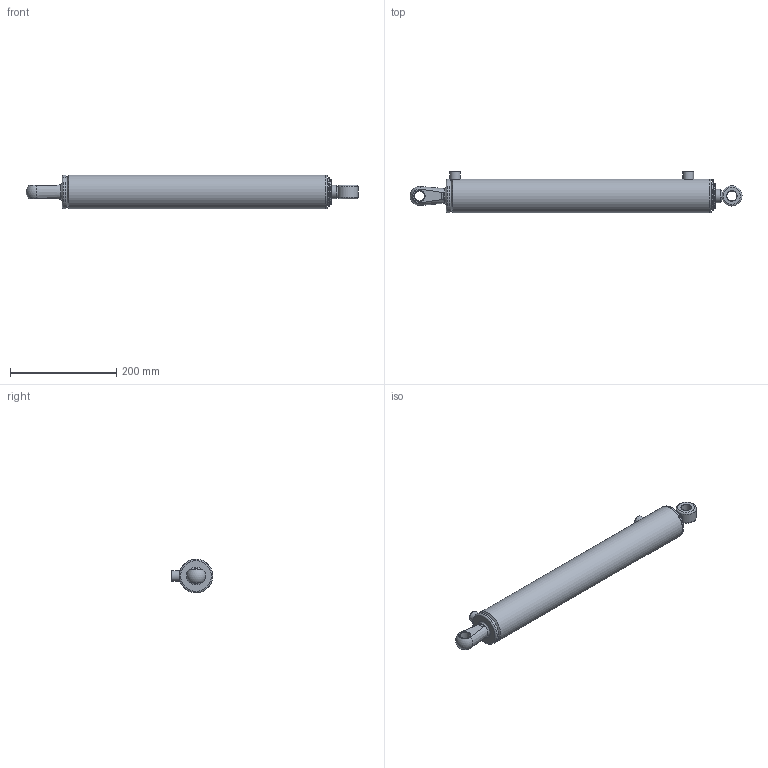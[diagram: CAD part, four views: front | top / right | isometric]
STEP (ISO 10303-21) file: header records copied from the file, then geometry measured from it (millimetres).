
FILE_DESCRIPTION(/* description */ ('Alibre Inc.'),/* implementation_level */ '2;1');
FILE_NAME(/* name */ 'export0',/* time_stamp */ '2016-08-16T09:53:09+12:00',/* author */ (''),/* organization */ (''),/* preprocessor_version */ 'ST-DEVELOPER v14',/* originating_system */ 'Alibre',/* authorisation */ '');
FILE_SCHEMA (('AUTOMOTIVE_DESIGN'));
Length unit declared in the file: centimetre
Bounding box: 624.94 x 78.5 x 63.5 mm (x, y, z)
Volume: 1008893.6 mm3; surface area: 279376.8 mm2
Topology: 11 solids, 11 shells, 138 faces, 278 edges, 173 vertices
Faces by surface type: cylinder 51, plane 44, cone 27, torus 13, bspline 2, sphere 1
Full cylindrical faces by diameter (mm): 2.5 x2, 5.588 x1, 6.35 x2, 8.3 x2, 11.9 x2, 17.323 x2, 19.05 x2, 19.101 x1, 20 x2, 25.4 x1, 25.45 x2, 31.77 x1, 31.8 x1, 32.5 x1, 34.93 x2, 38.1 x1, 41.3 x2, 44.91 x1, 45.5 x1, 46.23 x2, 48 x2, 48.3 x1, 49.48 x2, 50.07 x1, 50.69 x2, 50.8 x2, 54 x1, 63.5 x3
Entity records: 3664 total; most frequent: CARTESIAN_POINT 968, DIRECTION 530, ORIENTED_EDGE 330, AXIS2_PLACEMENT_3D 283, FACE_BOUND 258, EDGE_LOOP 256, EDGE_CURVE 165, VERTEX_POINT 153
